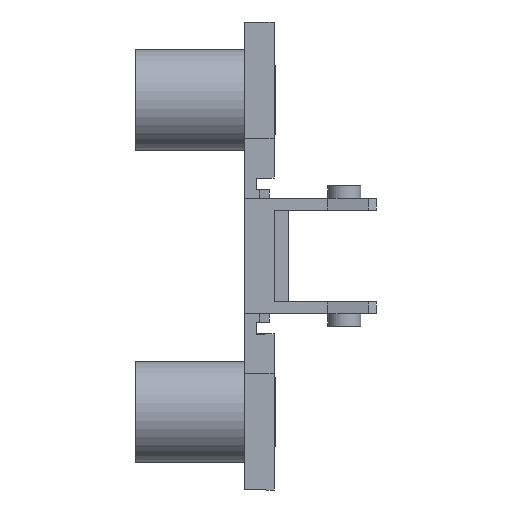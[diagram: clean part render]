
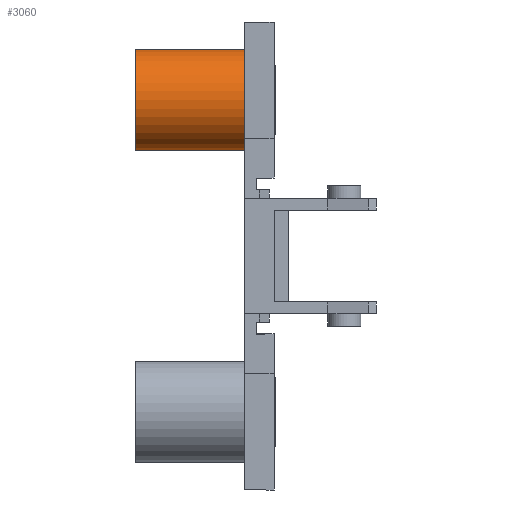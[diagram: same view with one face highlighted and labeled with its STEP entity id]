
A CAD part, front view. The second image highlights one B-rep face of the part: STEP entity #3060.
In plain terms, the highlighted cylindrical face has radius 5.2 mm (diameter 10.4 mm), a partial arc.
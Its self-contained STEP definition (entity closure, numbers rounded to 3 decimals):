
#23 = VECTOR ( 'NONE', #3158, 1000. ) ;
#329 = ORIENTED_EDGE ( 'NONE', *, *, #1565, .F. ) ;
#351 = DIRECTION ( 'NONE',  ( 0., 0., 1. ) ) ;
#451 = CARTESIAN_POINT ( 'NONE',  ( -3., -9., 16. ) ) ;
#486 = CARTESIAN_POINT ( 'NONE',  ( -14.2, -9., 21.2 ) ) ;
#618 = CARTESIAN_POINT ( 'NONE',  ( -14.2, -9., 16. ) ) ;
#640 = CARTESIAN_POINT ( 'NONE',  ( -14.2, -9., 16. ) ) ;
#643 = VERTEX_POINT ( 'NONE', #486 ) ;
#983 = CARTESIAN_POINT ( 'NONE',  ( -3., -9., 21.2 ) ) ;
#1005 = VERTEX_POINT ( 'NONE', #1310 ) ;
#1158 = DIRECTION ( 'NONE',  ( -1., 0., 0. ) ) ;
#1206 = DIRECTION ( 'NONE',  ( 1., 0., 0. ) ) ;
#1275 = ORIENTED_EDGE ( 'NONE', *, *, #2711, .F. ) ;
#1310 = CARTESIAN_POINT ( 'NONE',  ( -14.2, -9., 10.8 ) ) ;
#1560 = AXIS2_PLACEMENT_3D ( 'NONE', #618, #1158, #351 ) ;
#1565 = EDGE_CURVE ( 'NONE', #643, #1915, #3225, .T. ) ;
#1575 = ORIENTED_EDGE ( 'NONE', *, *, #3264, .T. ) ;
#1755 = DIRECTION ( 'NONE',  ( 0., 0., -1. ) ) ;
#1757 = ORIENTED_EDGE ( 'NONE', *, *, #3329, .T. ) ;
#1915 = VERTEX_POINT ( 'NONE', #983 ) ;
#2386 = DIRECTION ( 'NONE',  ( 0., 0., -1. ) ) ;
#2411 = AXIS2_PLACEMENT_3D ( 'NONE', #640, #1206, #1755 ) ;
#2440 = CIRCLE ( 'NONE', #2699, 5.2 ) ;
#2469 = DIRECTION ( 'NONE',  ( 1., 0., 0. ) ) ;
#2699 = AXIS2_PLACEMENT_3D ( 'NONE', #451, #3492, #2386 ) ;
#2711 = EDGE_CURVE ( 'NONE', #1005, #643, #3337, .T. ) ;
#2764 = EDGE_LOOP ( 'NONE', ( #329, #1275, #1757, #1575 ) ) ;
#2896 = CARTESIAN_POINT ( 'NONE',  ( -14.2, -9., 21.2 ) ) ;
#3028 = CARTESIAN_POINT ( 'NONE',  ( -14.2, -9., 10.8 ) ) ;
#3040 = CYLINDRICAL_SURFACE ( 'NONE', #2411, 5.2 ) ;
#3060 = ADVANCED_FACE ( 'NONE', ( #3543 ), #3040, .T. ) ;
#3084 = LINE ( 'NONE', #3028, #3168 ) ;
#3158 = DIRECTION ( 'NONE',  ( 1., 0., 0. ) ) ;
#3168 = VECTOR ( 'NONE', #2469, 1000. ) ;
#3225 = LINE ( 'NONE', #2896, #23 ) ;
#3264 = EDGE_CURVE ( 'NONE', #3321, #1915, #2440, .T. ) ;
#3276 = CARTESIAN_POINT ( 'NONE',  ( -3., -9., 10.8 ) ) ;
#3321 = VERTEX_POINT ( 'NONE', #3276 ) ;
#3329 = EDGE_CURVE ( 'NONE', #1005, #3321, #3084, .T. ) ;
#3337 = CIRCLE ( 'NONE', #1560, 5.2 ) ;
#3492 = DIRECTION ( 'NONE',  ( -1., 0., 0. ) ) ;
#3543 = FACE_OUTER_BOUND ( 'NONE', #2764, .T. ) ;
